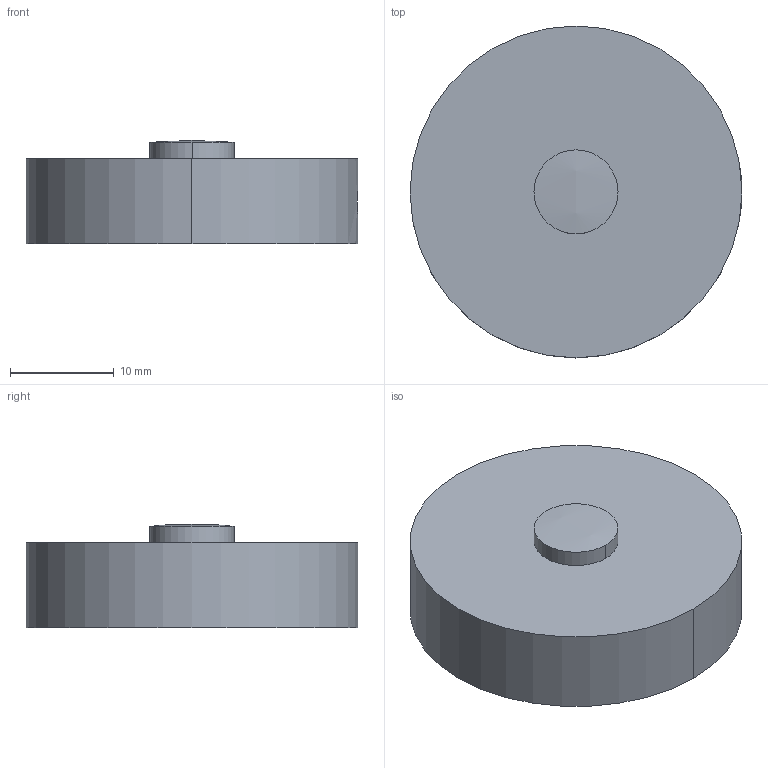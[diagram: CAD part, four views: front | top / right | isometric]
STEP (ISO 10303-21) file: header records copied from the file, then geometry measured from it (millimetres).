
FILE_DESCRIPTION((''),'1');
FILE_NAME('LKLD_200-500_kg.step','2018-01-11T16:20:35',(''),(''),'','','');
FILE_SCHEMA(('AUTOMOTIVE_DESIGN { 1 0 10303 214 1 1 1 1 }'));
Products named in the file (1): LKLD 200-500_kg
Bounding box: 32 x 32 x 9.94 mm (x, y, z)
Volume: 6350.2 mm3; surface area: 2731.5 mm2
Topology: 1 solids, 1 shells, 25 faces, 54 edges, 31 vertices
Faces by surface type: cylinder 14, cone 6, plane 4, sphere 1
Entity records: 895 total; most frequent: CARTESIAN_POINT 135, DIRECTION 124, ORIENTED_EDGE 96, AXIS2_PLACEMENT_3D 52, EDGE_CURVE 48, EDGE_LOOP 31, VERTEX_POINT 31, STYLED_ITEM 26
